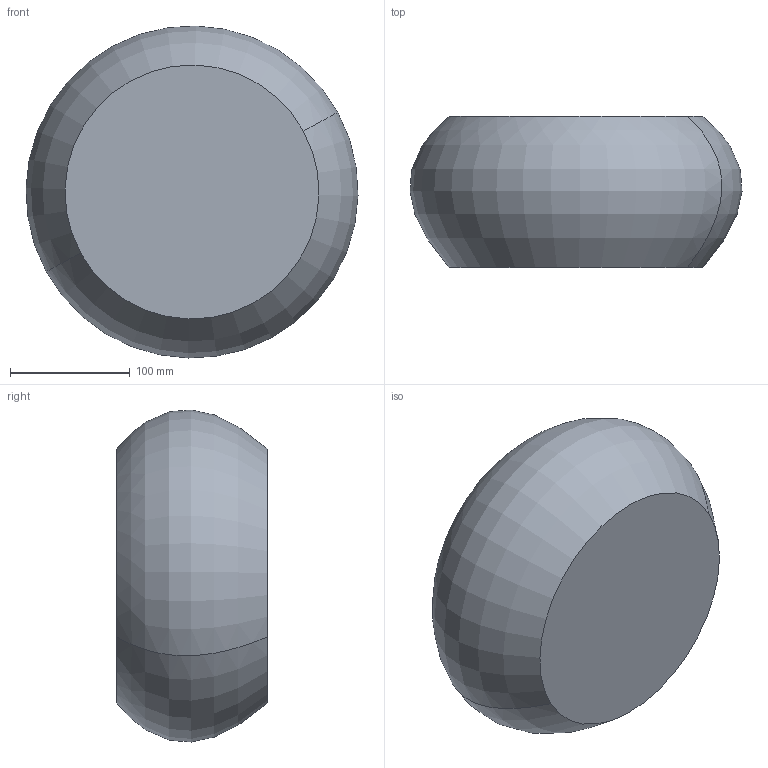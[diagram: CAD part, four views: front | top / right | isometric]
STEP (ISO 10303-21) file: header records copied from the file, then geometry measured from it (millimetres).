
FILE_DESCRIPTION(('CATIA V5 STEP Exchange'),'2;1');
FILE_NAME('C:\_Andres\UNIVERSIDAD\IQS\ASIGNATURAS\DAO\EXF\EXF-15161c\1original\Molins_Gutiérrez_Ej10-decora_v16.stp','2016-03-04T22:24:13+00:00',('none'),('none'),'CATIA Version 5 Release 20 SP 1 (IN-10)','CATIA V5 STEP AP203','none');
FILE_SCHEMA(('CONFIG_CONTROL_DESIGN'));
Length unit declared in the file: millimetre
Products named in the file (1): Molins_Gutiérrez_Ej10-decora_v16
Bounding box: 277.16 x 126 x 277.16 mm (x, y, z)
Volume: 6508373.5 mm3; surface area: 186957.4 mm2
Topology: 1 solids, 1 shells, 4 faces, 6 edges, 4 vertices
Faces by surface type: revolution 2, plane 2
Entity records: 166 total; most frequent: CARTESIAN_POINT 50, DIRECTION 12, ORIENTED_EDGE 12, AXIS2_PLACEMENT_3D 8, EDGE_CURVE 6, ADVANCED_FACE 4, B_SPLINE_CURVE_WITH_KNOTS 4, CC_DESIGN_PERSON_AND_ORGANIZATION_ASSIGNMENT 4
